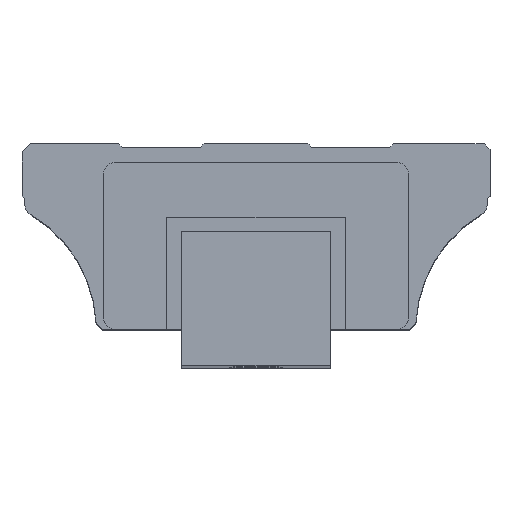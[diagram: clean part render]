
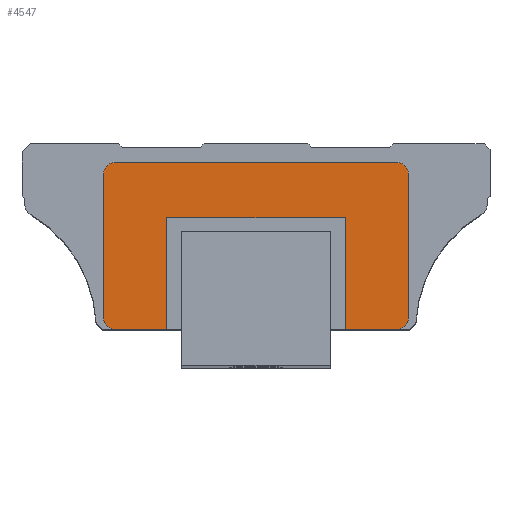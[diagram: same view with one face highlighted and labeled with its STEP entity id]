
A CAD part, top view. The second image highlights one B-rep face of the part: STEP entity #4547.
In plain terms, the highlighted planar face has unit normal (0, 0, 1).
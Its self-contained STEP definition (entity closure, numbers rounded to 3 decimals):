
#4266=CARTESIAN_POINT('',(-16.064,2.344,151.7));
#4267=VERTEX_POINT('',#4266);
#4268=CARTESIAN_POINT('',(-17.564,3.844,151.7));
#4269=VERTEX_POINT('',#4268);
#4270=CARTESIAN_POINT('',(-16.064,3.844,151.7));
#4271=DIRECTION('',(0.0,0.0,-1.0));
#4272=DIRECTION('',(0.0,-1.0,0.0));
#4273=AXIS2_PLACEMENT_3D('',#4270,#4271,#4272);
#4274=CIRCLE('',#4273,1.5);
#4275=EDGE_CURVE('',#4267,#4269,#4274,.T.);
#4308=CARTESIAN_POINT('',(-17.564,23.294,151.7));
#4309=VERTEX_POINT('',#4308);
#4310=CARTESIAN_POINT('',(-17.564,3.844,151.7));
#4311=DIRECTION('',(0.0,1.0,0.0));
#4312=VECTOR('',#4311,1.);
#4313=LINE('',#4310,#4312);
#4314=EDGE_CURVE('',#4269,#4309,#4313,.T.);
#4339=CARTESIAN_POINT('',(-16.064,24.794,151.7));
#4340=VERTEX_POINT('',#4339);
#4341=CARTESIAN_POINT('',(-16.064,23.294,151.7));
#4342=DIRECTION('',(0.0,0.0,-1.0));
#4343=DIRECTION('',(-1.0,0.0,0.0));
#4344=AXIS2_PLACEMENT_3D('',#4341,#4342,#4343);
#4345=CIRCLE('',#4344,1.5);
#4346=EDGE_CURVE('',#4309,#4340,#4345,.T.);
#4372=CARTESIAN_POINT('',(21.936,24.794,151.7));
#4373=VERTEX_POINT('',#4372);
#4374=CARTESIAN_POINT('',(-16.064,24.794,151.7));
#4375=DIRECTION('',(1.0,0.0,0.0));
#4376=VECTOR('',#4375,1.);
#4377=LINE('',#4374,#4376);
#4378=EDGE_CURVE('',#4340,#4373,#4377,.T.);
#4403=CARTESIAN_POINT('',(23.436,23.294,151.7));
#4404=VERTEX_POINT('',#4403);
#4405=CARTESIAN_POINT('',(21.936,23.294,151.7));
#4406=DIRECTION('',(0.0,0.0,-1.0));
#4407=DIRECTION('',(0.0,1.0,0.0));
#4408=AXIS2_PLACEMENT_3D('',#4405,#4406,#4407);
#4409=CIRCLE('',#4408,1.5);
#4410=EDGE_CURVE('',#4373,#4404,#4409,.T.);
#4436=CARTESIAN_POINT('',(23.436,3.844,151.7));
#4437=VERTEX_POINT('',#4436);
#4438=CARTESIAN_POINT('',(23.436,23.294,151.7));
#4439=DIRECTION('',(0.0,-1.0,0.0));
#4440=VECTOR('',#4439,1.0);
#4441=LINE('',#4438,#4440);
#4442=EDGE_CURVE('',#4404,#4437,#4441,.T.);
#4467=CARTESIAN_POINT('',(21.936,2.344,151.7));
#4468=VERTEX_POINT('',#4467);
#4469=CARTESIAN_POINT('',(21.936,3.844,151.7));
#4470=DIRECTION('',(0.0,0.0,-1.0));
#4471=DIRECTION('',(1.0,0.0,0.0));
#4472=AXIS2_PLACEMENT_3D('',#4469,#4470,#4471);
#4473=CIRCLE('',#4472,1.5);
#4474=EDGE_CURVE('',#4437,#4468,#4473,.T.);
#4495=CARTESIAN_POINT('',(-19.614,1.222,151.7));
#4496=DIRECTION('',(0.0,0.0,1.0));
#4497=DIRECTION('',(1.0,0.0,0.0));
#4498=AXIS2_PLACEMENT_3D('',#4495,#4496,#4497);
#4499=PLANE('',#4498);
#4500=CARTESIAN_POINT('',(14.936,2.344,151.7));
#4501=VERTEX_POINT('',#4500);
#4502=CARTESIAN_POINT('',(21.936,2.344,151.7));
#4503=DIRECTION('',(-1.0,0.0,0.0));
#4504=VECTOR('',#4503,1.0);
#4505=LINE('',#4502,#4504);
#4506=EDGE_CURVE('',#4468,#4501,#4505,.T.);
#4507=ORIENTED_EDGE('',*,*,#4506,.F.);
#4508=ORIENTED_EDGE('',*,*,#4474,.F.);
#4509=ORIENTED_EDGE('',*,*,#4442,.F.);
#4510=ORIENTED_EDGE('',*,*,#4410,.F.);
#4511=ORIENTED_EDGE('',*,*,#4378,.F.);
#4512=ORIENTED_EDGE('',*,*,#4346,.F.);
#4513=ORIENTED_EDGE('',*,*,#4314,.F.);
#4514=ORIENTED_EDGE('',*,*,#4275,.F.);
#4515=CARTESIAN_POINT('',(-9.064,2.344,151.7));
#4516=VERTEX_POINT('',#4515);
#4517=CARTESIAN_POINT('',(-9.064,2.344,151.7));
#4518=DIRECTION('',(-1.0,0.0,0.0));
#4519=VECTOR('',#4518,1.0);
#4520=LINE('',#4517,#4519);
#4521=EDGE_CURVE('',#4516,#4267,#4520,.T.);
#4522=ORIENTED_EDGE('',*,*,#4521,.F.);
#4523=CARTESIAN_POINT('',(-9.064,17.344,151.7));
#4524=VERTEX_POINT('',#4523);
#4525=CARTESIAN_POINT('',(-9.064,17.344,151.7));
#4526=DIRECTION('',(0.0,-1.0,0.0));
#4527=VECTOR('',#4526,1.0);
#4528=LINE('',#4525,#4527);
#4529=EDGE_CURVE('',#4524,#4516,#4528,.T.);
#4530=ORIENTED_EDGE('',*,*,#4529,.F.);
#4531=CARTESIAN_POINT('',(14.936,17.344,151.7));
#4532=VERTEX_POINT('',#4531);
#4533=CARTESIAN_POINT('',(14.936,17.344,151.7));
#4534=DIRECTION('',(-1.0,0.0,0.0));
#4535=VECTOR('',#4534,1.0);
#4536=LINE('',#4533,#4535);
#4537=EDGE_CURVE('',#4532,#4524,#4536,.T.);
#4538=ORIENTED_EDGE('',*,*,#4537,.F.);
#4539=CARTESIAN_POINT('',(14.936,2.344,151.7));
#4540=DIRECTION('',(0.0,1.0,0.0));
#4541=VECTOR('',#4540,1.0);
#4542=LINE('',#4539,#4541);
#4543=EDGE_CURVE('',#4501,#4532,#4542,.T.);
#4544=ORIENTED_EDGE('',*,*,#4543,.F.);
#4545=EDGE_LOOP('',(#4507,#4508,#4509,#4510,#4511,#4512,#4513,#4514,#4522,#4530,#4538,#4544));
#4546=FACE_OUTER_BOUND('',#4545,.T.);
#4547=ADVANCED_FACE('',(#4546),#4499,.T.);
